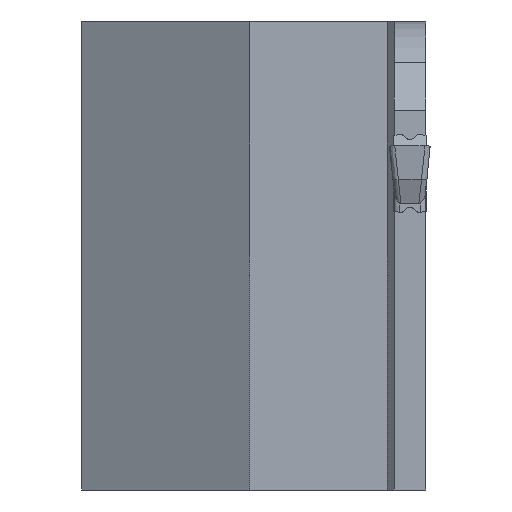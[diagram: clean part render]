
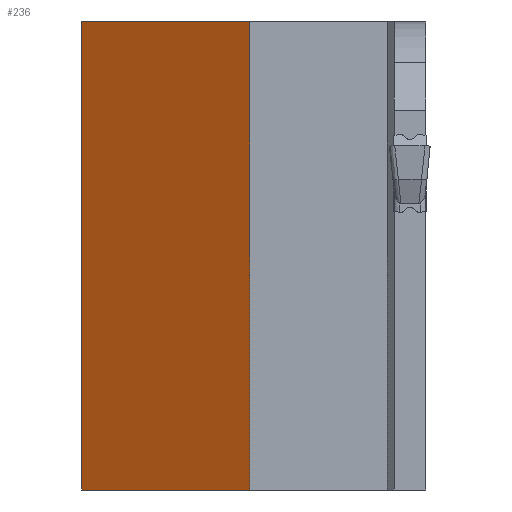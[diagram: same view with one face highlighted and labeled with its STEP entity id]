
A CAD part, left-side view. The second image highlights one B-rep face of the part: STEP entity #236.
In plain terms, the highlighted planar face has unit normal (-0.866, 0.5, 0).
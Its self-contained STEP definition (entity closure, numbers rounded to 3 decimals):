
#236=ADVANCED_FACE('',(#364),#291,.T.);
#291=PLANE('',#1653);
#364=FACE_OUTER_BOUND('',#439,.T.);
#439=EDGE_LOOP('',(#806,#807,#808,#809));
#806=ORIENTED_EDGE('',*,*,#1210,.F.);
#807=ORIENTED_EDGE('',*,*,#1211,.F.);
#808=ORIENTED_EDGE('',*,*,#1212,.T.);
#809=ORIENTED_EDGE('',*,*,#1209,.T.);
#1008=VERTEX_POINT('',#2661);
#1011=VERTEX_POINT('',#2666);
#1012=VERTEX_POINT('',#2670);
#1013=VERTEX_POINT('',#2672);
#1209=EDGE_CURVE('',#1008,#1011,#1371,.T.);
#1210=EDGE_CURVE('',#1012,#1011,#1372,.T.);
#1211=EDGE_CURVE('',#1013,#1012,#1373,.T.);
#1212=EDGE_CURVE('',#1013,#1008,#1374,.T.);
#1371=LINE('',#2667,#1536);
#1372=LINE('',#2669,#1537);
#1373=LINE('',#2671,#1538);
#1374=LINE('',#2673,#1539);
#1536=VECTOR('',#1989,1.);
#1537=VECTOR('',#1992,1.);
#1538=VECTOR('',#1993,1.);
#1539=VECTOR('',#1994,1.);
#1653=AXIS2_PLACEMENT_3D('',#2674,#1995,#1996);
#1989=DIRECTION('',(0.,0.,1.));
#1992=DIRECTION('',(-0.5,-0.866,0.));
#1993=DIRECTION('',(0.,0.,1.));
#1994=DIRECTION('',(-0.5,-0.866,0.));
#1995=DIRECTION('',(-0.866,0.5,0.));
#1996=DIRECTION('',(-0.5,-0.866,0.));
#2661=CARTESIAN_POINT('',(18.5,13.15,-25.));
#2666=CARTESIAN_POINT('',(18.5,13.15,9.));
#2667=CARTESIAN_POINT('',(18.5,13.15,-25.));
#2669=CARTESIAN_POINT('',(25.544,25.35,9.));
#2670=CARTESIAN_POINT('',(25.544,25.35,9.));
#2671=CARTESIAN_POINT('',(25.544,25.35,-25.));
#2672=CARTESIAN_POINT('',(25.544,25.35,-25.));
#2673=CARTESIAN_POINT('',(25.544,25.35,-25.));
#2674=CARTESIAN_POINT('',(25.544,25.35,-25.));
